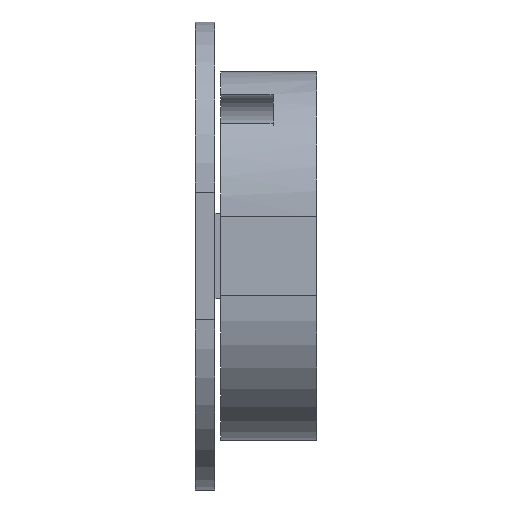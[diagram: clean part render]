
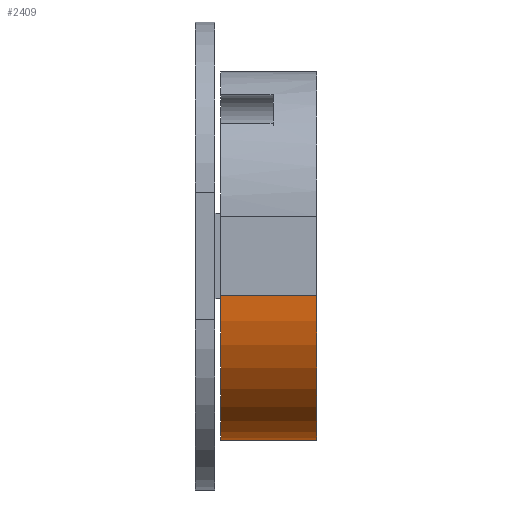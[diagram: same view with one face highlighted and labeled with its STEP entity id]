
A CAD part, front view. The second image highlights one B-rep face of the part: STEP entity #2409.
In plain terms, the highlighted cylindrical face has radius 5.1 mm (diameter 10.2 mm), a partial arc.
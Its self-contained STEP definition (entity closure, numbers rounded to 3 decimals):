
#1150 = PLANE('',#1151);
#1151 = AXIS2_PLACEMENT_3D('',#1152,#1153,#1154);
#1152 = CARTESIAN_POINT('',(40.9,-4.5,6.5));
#1153 = DIRECTION('',(1.,0.,0.));
#1154 = DIRECTION('',(0.,0.,-1.));
#1604 = VERTEX_POINT('',#1605);
#1605 = CARTESIAN_POINT('',(40.9,-4.5,-1.4));
#1619 = PLANE('',#1620);
#1620 = AXIS2_PLACEMENT_3D('',#1621,#1622,#1623);
#1621 = CARTESIAN_POINT('',(40.9,-4.5,6.5));
#1622 = DIRECTION('',(0.,1.,0.));
#1623 = DIRECTION('',(1.,-0.,0.));
#1631 = EDGE_CURVE('',#1632,#1604,#1634,.T.);
#1632 = VERTEX_POINT('',#1633);
#1633 = CARTESIAN_POINT('',(40.9,0.6,-6.5));
#1634 = SURFACE_CURVE('',#1635,(#1640,#1651),.PCURVE_S1.);
#1635 = CIRCLE('',#1636,5.1);
#1636 = AXIS2_PLACEMENT_3D('',#1637,#1638,#1639);
#1637 = CARTESIAN_POINT('',(40.9,0.6,-1.4));
#1638 = DIRECTION('',(-1.,-0.,0.));
#1639 = DIRECTION('',(0.,-1.,0.));
#1640 = PCURVE('',#1150,#1641);
#1641 = DEFINITIONAL_REPRESENTATION('',(#1642),#1650);
#1642 = ( BOUNDED_CURVE() B_SPLINE_CURVE(2,(#1643,#1644,#1645,#1646,
#1647,#1648,#1649),.UNSPECIFIED.,.T.,.F.) B_SPLINE_CURVE_WITH_KNOTS((1,2
    ,2,2,2,1),(-2.094,0.,2.094,4.189,
6.283,8.378),.UNSPECIFIED.) CURVE() 
GEOMETRIC_REPRESENTATION_ITEM() RATIONAL_B_SPLINE_CURVE((1.,0.5,1.,0.5,
1.,0.5,1.)) REPRESENTATION_ITEM('') );
#1643 = CARTESIAN_POINT('',(7.9,0.));
#1644 = CARTESIAN_POINT('',(-0.933,0.));
#1645 = CARTESIAN_POINT('',(3.483,7.65));
#1646 = CARTESIAN_POINT('',(7.9,15.3));
#1647 = CARTESIAN_POINT('',(12.317,7.65));
#1648 = CARTESIAN_POINT('',(16.733,0.));
#1649 = CARTESIAN_POINT('',(7.9,0.));
#1650 = ( GEOMETRIC_REPRESENTATION_CONTEXT(2) 
PARAMETRIC_REPRESENTATION_CONTEXT() REPRESENTATION_CONTEXT('2D SPACE',''
  ) );
#1651 = PCURVE('',#1652,#1657);
#1652 = CYLINDRICAL_SURFACE('',#1653,5.1);
#1653 = AXIS2_PLACEMENT_3D('',#1654,#1655,#1656);
#1654 = CARTESIAN_POINT('',(40.9,0.6,-1.4));
#1655 = DIRECTION('',(1.,0.,0.));
#1656 = DIRECTION('',(0.,0.,-1.));
#1657 = DEFINITIONAL_REPRESENTATION('',(#1658),#1662);
#1658 = LINE('',#1659,#1660);
#1659 = CARTESIAN_POINT('',(10.996,0.));
#1660 = VECTOR('',#1661,1.);
#1661 = DIRECTION('',(-1.,0.));
#1662 = ( GEOMETRIC_REPRESENTATION_CONTEXT(2) 
PARAMETRIC_REPRESENTATION_CONTEXT() REPRESENTATION_CONTEXT('2D SPACE',''
  ) );
#1680 = PLANE('',#1681);
#1681 = AXIS2_PLACEMENT_3D('',#1682,#1683,#1684);
#1682 = CARTESIAN_POINT('',(40.9,-4.5,-6.5));
#1683 = DIRECTION('',(0.,0.,-1.));
#1684 = DIRECTION('',(1.,0.,0.));
#1906 = PLANE('',#1907);
#1907 = AXIS2_PLACEMENT_3D('',#1908,#1909,#1910);
#1908 = CARTESIAN_POINT('',(44.3,-4.5,6.5));
#1909 = DIRECTION('',(1.,0.,0.));
#1910 = DIRECTION('',(0.,0.,-1.));
#2293 = VERTEX_POINT('',#2294);
#2294 = CARTESIAN_POINT('',(44.3,0.6,-6.5));
#2317 = EDGE_CURVE('',#1632,#2293,#2318,.T.);
#2318 = SURFACE_CURVE('',#2319,(#2323,#2330),.PCURVE_S1.);
#2319 = LINE('',#2320,#2321);
#2320 = CARTESIAN_POINT('',(40.9,0.6,-6.5));
#2321 = VECTOR('',#2322,1.);
#2322 = DIRECTION('',(1.,0.,0.));
#2323 = PCURVE('',#1680,#2324);
#2324 = DEFINITIONAL_REPRESENTATION('',(#2325),#2329);
#2325 = LINE('',#2326,#2327);
#2326 = CARTESIAN_POINT('',(0.,-5.1));
#2327 = VECTOR('',#2328,1.);
#2328 = DIRECTION('',(1.,0.));
#2329 = ( GEOMETRIC_REPRESENTATION_CONTEXT(2) 
PARAMETRIC_REPRESENTATION_CONTEXT() REPRESENTATION_CONTEXT('2D SPACE',''
  ) );
#2330 = PCURVE('',#1652,#2331);
#2331 = DEFINITIONAL_REPRESENTATION('',(#2332),#2336);
#2332 = LINE('',#2333,#2334);
#2333 = CARTESIAN_POINT('',(6.283,0.));
#2334 = VECTOR('',#2335,1.);
#2335 = DIRECTION('',(-0.,1.));
#2336 = ( GEOMETRIC_REPRESENTATION_CONTEXT(2) 
PARAMETRIC_REPRESENTATION_CONTEXT() REPRESENTATION_CONTEXT('2D SPACE',''
  ) );
#2409 = ADVANCED_FACE('',(#2410),#1652,.T.);
#2410 = FACE_BOUND('',#2411,.T.);
#2411 = EDGE_LOOP('',(#2412,#2413,#2441,#2462));
#2412 = ORIENTED_EDGE('',*,*,#2317,.T.);
#2413 = ORIENTED_EDGE('',*,*,#2414,.T.);
#2414 = EDGE_CURVE('',#2293,#2415,#2417,.T.);
#2415 = VERTEX_POINT('',#2416);
#2416 = CARTESIAN_POINT('',(44.3,-4.5,-1.4));
#2417 = SURFACE_CURVE('',#2418,(#2423,#2430),.PCURVE_S1.);
#2418 = CIRCLE('',#2419,5.1);
#2419 = AXIS2_PLACEMENT_3D('',#2420,#2421,#2422);
#2420 = CARTESIAN_POINT('',(44.3,0.6,-1.4));
#2421 = DIRECTION('',(-1.,-0.,0.));
#2422 = DIRECTION('',(0.,-1.,0.));
#2423 = PCURVE('',#1652,#2424);
#2424 = DEFINITIONAL_REPRESENTATION('',(#2425),#2429);
#2425 = LINE('',#2426,#2427);
#2426 = CARTESIAN_POINT('',(10.996,3.4));
#2427 = VECTOR('',#2428,1.);
#2428 = DIRECTION('',(-1.,0.));
#2429 = ( GEOMETRIC_REPRESENTATION_CONTEXT(2) 
PARAMETRIC_REPRESENTATION_CONTEXT() REPRESENTATION_CONTEXT('2D SPACE',''
  ) );
#2430 = PCURVE('',#1906,#2431);
#2431 = DEFINITIONAL_REPRESENTATION('',(#2432),#2440);
#2432 = ( BOUNDED_CURVE() B_SPLINE_CURVE(2,(#2433,#2434,#2435,#2436,
#2437,#2438,#2439),.UNSPECIFIED.,.T.,.F.) B_SPLINE_CURVE_WITH_KNOTS((1,2
    ,2,2,2,1),(-2.094,0.,2.094,4.189,
6.283,8.378),.UNSPECIFIED.) CURVE() 
GEOMETRIC_REPRESENTATION_ITEM() RATIONAL_B_SPLINE_CURVE((1.,0.5,1.,0.5,
1.,0.5,1.)) REPRESENTATION_ITEM('') );
#2433 = CARTESIAN_POINT('',(7.9,0.));
#2434 = CARTESIAN_POINT('',(-0.933,0.));
#2435 = CARTESIAN_POINT('',(3.483,7.65));
#2436 = CARTESIAN_POINT('',(7.9,15.3));
#2437 = CARTESIAN_POINT('',(12.317,7.65));
#2438 = CARTESIAN_POINT('',(16.733,0.));
#2439 = CARTESIAN_POINT('',(7.9,0.));
#2440 = ( GEOMETRIC_REPRESENTATION_CONTEXT(2) 
PARAMETRIC_REPRESENTATION_CONTEXT() REPRESENTATION_CONTEXT('2D SPACE',''
  ) );
#2441 = ORIENTED_EDGE('',*,*,#2442,.F.);
#2442 = EDGE_CURVE('',#1604,#2415,#2443,.T.);
#2443 = SURFACE_CURVE('',#2444,(#2448,#2455),.PCURVE_S1.);
#2444 = LINE('',#2445,#2446);
#2445 = CARTESIAN_POINT('',(40.9,-4.5,-1.4));
#2446 = VECTOR('',#2447,1.);
#2447 = DIRECTION('',(1.,0.,0.));
#2448 = PCURVE('',#1652,#2449);
#2449 = DEFINITIONAL_REPRESENTATION('',(#2450),#2454);
#2450 = LINE('',#2451,#2452);
#2451 = CARTESIAN_POINT('',(4.712,0.));
#2452 = VECTOR('',#2453,1.);
#2453 = DIRECTION('',(-0.,1.));
#2454 = ( GEOMETRIC_REPRESENTATION_CONTEXT(2) 
PARAMETRIC_REPRESENTATION_CONTEXT() REPRESENTATION_CONTEXT('2D SPACE',''
  ) );
#2455 = PCURVE('',#1619,#2456);
#2456 = DEFINITIONAL_REPRESENTATION('',(#2457),#2461);
#2457 = LINE('',#2458,#2459);
#2458 = CARTESIAN_POINT('',(0.,7.9));
#2459 = VECTOR('',#2460,1.);
#2460 = DIRECTION('',(1.,0.));
#2461 = ( GEOMETRIC_REPRESENTATION_CONTEXT(2) 
PARAMETRIC_REPRESENTATION_CONTEXT() REPRESENTATION_CONTEXT('2D SPACE',''
  ) );
#2462 = ORIENTED_EDGE('',*,*,#1631,.F.);
